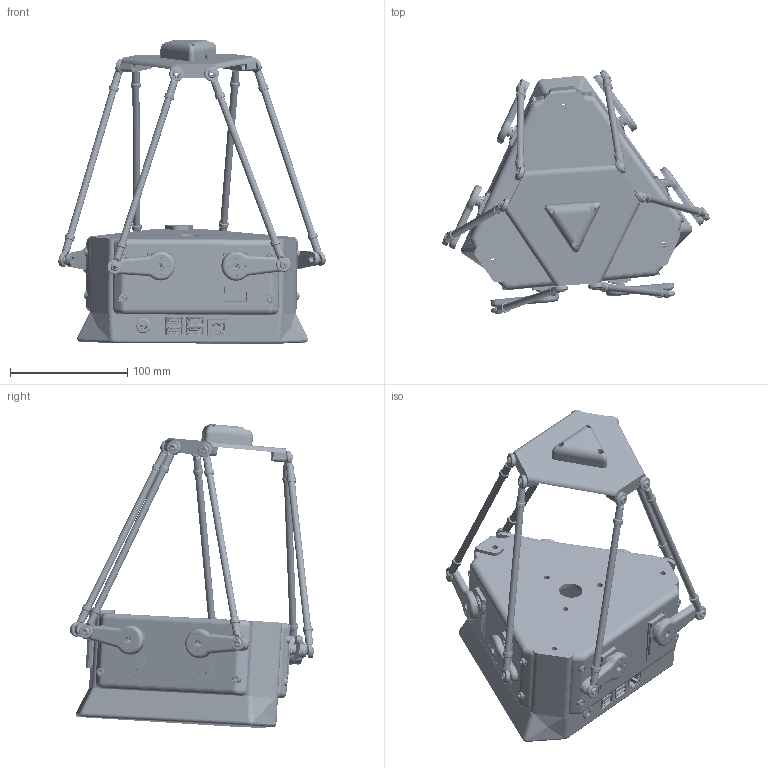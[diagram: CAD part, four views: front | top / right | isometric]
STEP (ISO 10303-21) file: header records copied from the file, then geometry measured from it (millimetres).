
FILE_DESCRIPTION(/* description */ ('STEP AP242 Edition 2','CAx-IF Rec.Pracs.---Representation and Presentation of Product Manufacturing Information (PMI)---4.0---2014-10-13','CAx-IF Rec.Pracs.---3D Tessellated Geometry---0.4---2014-09-14','2;1','CAx-IF Rec.Pracs.---User Defined Attributes---1.5---2016-08-15'),/* implementation_level */ '2;1');
FILE_NAME(/* name */ '6a21ffb3fbcafd8173e0709c',/* time_stamp */ '2026-06-04T22:44:10Z',/* author */ (''),/* organization */ (''),/* preprocessor_version */ 'ST-DEVELOPER v20',/* originating_system */ 'ONSHAPE BY PTC INC, 1.215',/* authorisation */ ' ');
FILE_SCHEMA (('AP242_MANAGED_MODEL_BASED_3D_ENGINEERING_MIM_LF { 1 0 10303 442 3 1 4 }'));
Products named in the file (154): stewart V2; Hex socket head cap screw M4x0.70 x 6; Part 1; Part 9; PZ Pan head screw M2x0.40 x 6; Hex socket head cap screw M2.5x0.45 x 3; Part 3; Part 4; E20_power_connector; Part 6; Part 5; Motor <3>; Axe; Servo MG 996R; Motor <4>; Part 2; Part 8; Motor <1>; upper arm assembly <6>; Fisheye joint <1>; ball; Fisheye joint; Fisheye joint <2>; Motor <2>; upper arm assembly <2>; Motor <6>; upper arm assembly <1>; upper arm assembly <4>; upper arm assembly <5>; Motor <5>; upper arm assembly <3>; Raspberry Pi 4 Model B <1>; Display Connector, RPi4ModelB; Microphone Plug, RPi4ModelB; 2.54 mm DUPONT MALE PIN HEADER, IO, 2X20, RPi4ModelB; SD Card Slot, RPi4ModelB; Female USB Type C Connector, RPi4ModelB; Camera Connector, RPi4ModelB; MxL7704 Universal PMIC, RPi4ModelB; Cypress CYW43455 Wireless Module Cover, RPi4ModelB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
Assembly tree (224 placements, depth 4):
  stewart V2
    Hex socket head cap screw M4x0.70 x 6  x12
    Part 1  x6
    Part 9
    PZ Pan head screw M2x0.40 x 6  x6
    Hex socket head cap screw M2.5x0.45 x 3  x4
    Part 3
    Part 4  x3
    E20_power_connector
    Part 6
    Part 5  x3
    Motor <3>
      Axe
      Servo MG 996R
      Part 1
    Part 1
    Motor <4>
      Servo MG 996R
      Axe
      Part 1
    Part 2
    Part 8
    Motor <1>
      Axe
      Servo MG 996R
      Part 1
    Part 2
    upper arm assembly <6>
      Fisheye joint <1>
        ball
        Fisheye joint
      Fisheye joint <2>
        ball
        Fisheye joint
      Part 1
    Motor <2>
      Servo MG 996R
      Part 1
      Axe
    upper arm assembly <2>
      Fisheye joint <1>
        ball
        Fisheye joint
      Fisheye joint <2>
        ball
        Fisheye joint
      Part 1
    Motor <6>
      Part 1
      Servo MG 996R
      Axe
    upper arm assembly <1>
      Part 1
      Fisheye joint <1>
        ball
        Fisheye joint
      Fisheye joint <2>
        ball
        Fisheye joint
    upper arm assembly <4>
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Bounding box: 228.02 x 208.18 x 259.07 mm (x, y, z)
Volume: 804454 mm3; surface area: 382615.5 mm2
Topology: 199 solids, 200 shells, 13787 faces, 38133 edges, 24849 vertices
Faces by surface type: plane 9280, cylinder 3627, bspline 441, cone 195, torus 164, sphere 80
Full cylindrical faces by diameter (mm): 0.95 x2, 1 x47, 1.2 x2, 1.5 x25, 1.8 x6, 1.95 x2, 2 x13, 2.4 x4, 2.5 x10, 2.7 x4, 3 x18, 3.6 x1, 3.7 x1, 3.8 x1, 3.85 x36, 4 x30, 4.5 x10, 5 x31, 5.2 x6, 5.8 x7, 6 x33, 7 x16, 7.5 x15, 8.3 x12, 9 x6, 10.5 x1, 10.7 x6, 11 x3, 12 x1, 13.1 x6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
Entity records: 365038 total; most frequent: CARTESIAN_POINT 80960, ORIENTED_EDGE 57948, DIRECTION 52818, EDGE_CURVE 28974, LINE 23124, VECTOR 23124, VERTEX_POINT 19039, AXIS2_PLACEMENT_3D 14847
